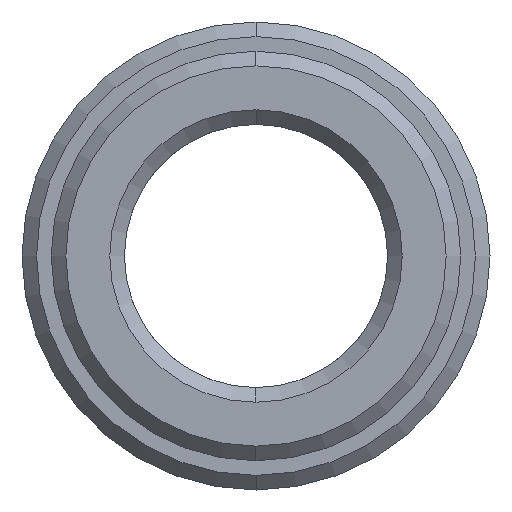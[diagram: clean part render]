
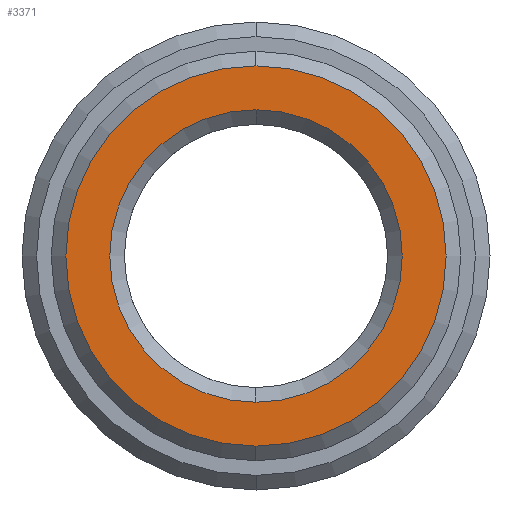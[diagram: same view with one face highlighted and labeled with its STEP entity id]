
A CAD part, left-side view. The second image highlights one B-rep face of the part: STEP entity #3371.
In plain terms, the highlighted planar face has unit normal (-1, 0, 0).
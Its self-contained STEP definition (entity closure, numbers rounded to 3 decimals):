
#1934=CARTESIAN_POINT('',(-5.,0.,0.));
#1935=DIRECTION('',(1.,0.,0.));
#1936=DIRECTION('',(0.,0.,1.));
#1937=AXIS2_PLACEMENT_3D('',#1934,#1935,#1936);
#1939=CARTESIAN_POINT('',(-5.,0.,0.));
#1940=DIRECTION('',(1.,0.,0.));
#1941=DIRECTION('',(0.,0.,-1.));
#1942=AXIS2_PLACEMENT_3D('',#1939,#1940,#1941);
#1944=CARTESIAN_POINT('',(-5.,0.,0.));
#1945=DIRECTION('',(1.,0.,0.));
#1946=DIRECTION('',(0.,0.,-1.));
#1947=AXIS2_PLACEMENT_3D('',#1944,#1945,#1946);
#1949=CARTESIAN_POINT('',(-5.,0.,0.));
#1950=DIRECTION('',(1.,0.,0.));
#1951=DIRECTION('',(0.,0.,1.));
#1952=AXIS2_PLACEMENT_3D('',#1949,#1950,#1951);
#2134=CARTESIAN_POINT('',(-5.,0.,-5.));
#2135=CARTESIAN_POINT('',(-5.,0.,5.));
#2136=VERTEX_POINT('',#2134);
#2137=VERTEX_POINT('',#2135);
#2142=CARTESIAN_POINT('',(-5.,0.,6.5));
#2143=CARTESIAN_POINT('',(-5.,0.,-6.5));
#2144=VERTEX_POINT('',#2142);
#2145=VERTEX_POINT('',#2143);
#3356=CARTESIAN_POINT('',(-5.,0.,0.));
#3357=DIRECTION('',(1.,0.,0.));
#3358=DIRECTION('',(0.,0.,1.));
#3359=AXIS2_PLACEMENT_3D('',#3356,#3357,#3358);
#3360=PLANE('',#3359);
#3361=ORIENTED_EDGE('',*,*,#3323,.T.);
#3362=ORIENTED_EDGE('',*,*,#3338,.T.);
#3363=EDGE_LOOP('',(#3361,#3362));
#3364=FACE_OUTER_BOUND('',#3363,.F.);
#3366=ORIENTED_EDGE('',*,*,#3365,.F.);
#3368=ORIENTED_EDGE('',*,*,#3367,.F.);
#3369=EDGE_LOOP('',(#3366,#3368));
#3370=FACE_BOUND('',#3369,.F.);
#3371=ADVANCED_FACE('',(#3364,#3370),#3360,.F.);
#1938=CIRCLE('',#1937,6.5);
#1943=CIRCLE('',#1942,6.5);
#1948=CIRCLE('',#1947,5.);
#1953=CIRCLE('',#1952,5.);
#3323=EDGE_CURVE('',#2144,#2145,#1938,.T.);
#3338=EDGE_CURVE('',#2145,#2144,#1943,.T.);
#3365=EDGE_CURVE('',#2136,#2137,#1948,.T.);
#3367=EDGE_CURVE('',#2137,#2136,#1953,.T.);
